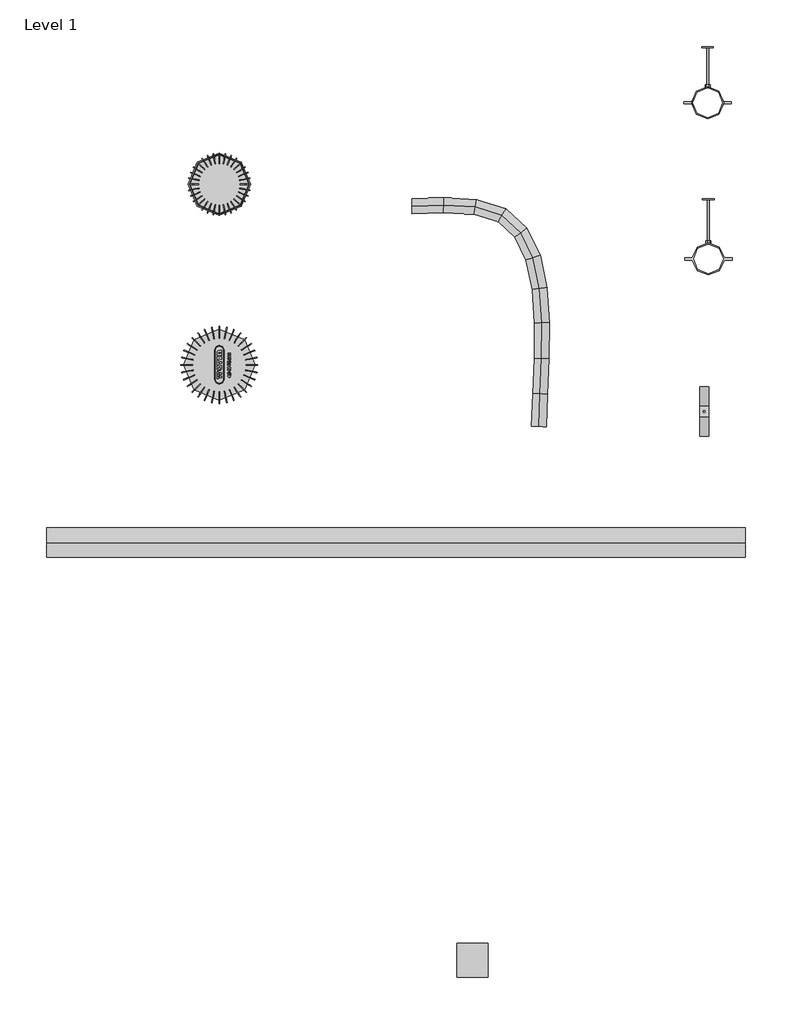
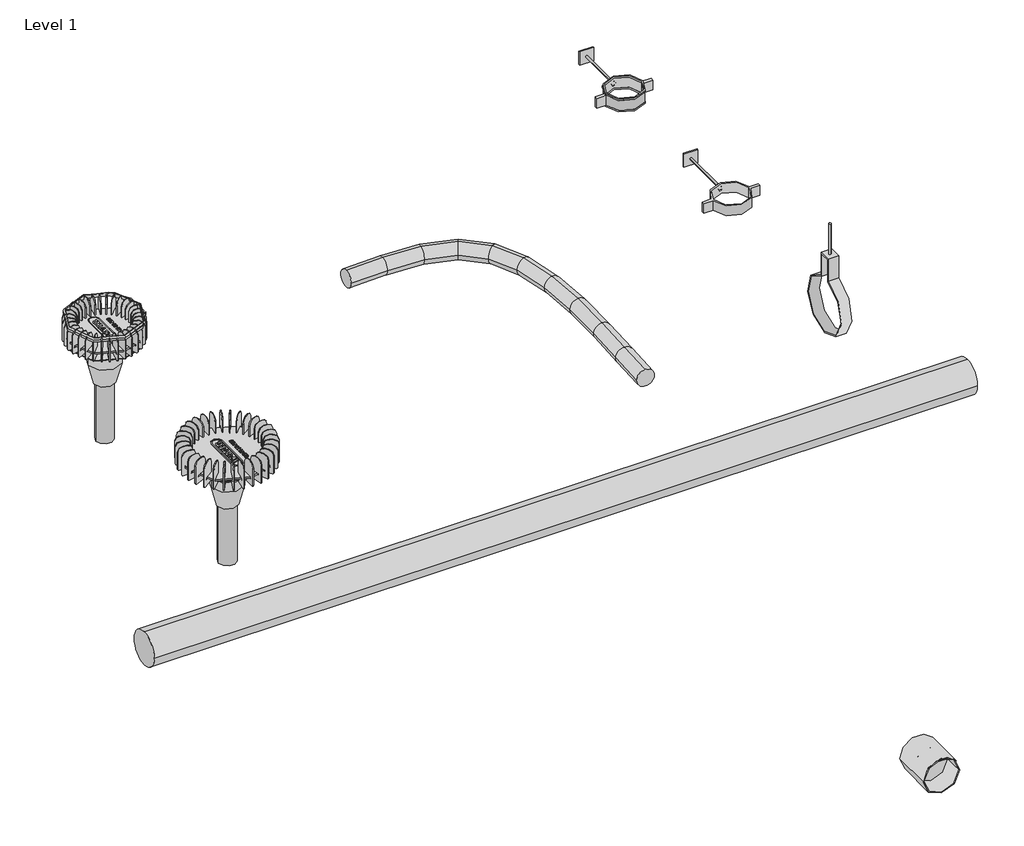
# One storey, incomplete: 9 pipe fittings, 2 pipe segments, 2 sanitary terminals.
"""IFC4 building model written with IfcOpenShell, lengths in millimetres."""

from ifc_helpers import new_model, si_unit, point, frame, frame_2d, origin, place, context, project, spatial, circle_curve, ellipse_curve, trimmed, segment, composite_curve, outline, extrude, transform, mapped, element, save
from ifc_brep_helpers import plane_surface, cylinder_surface, advanced_brep
from components import pipe_fitting_100mm_1dd35341, pipe_fitting_100mm_ce98358c, pipe_fitting_160mm_f1266ca1, var_6497f26d, var_11255891, var_2b31af74, var_5ac05391, var_02902a97, var_ffde15c7, var_37cc0f51, var_c5092817, var_465fd9f6

model = new_model("IFC4")

# Units and contexts
model_context = context("Model", 3, world=origin())
ifc_project = project(units=[si_unit("LENGTHUNIT", "METRE", prefix="MILLI")], contexts=[model_context])

# Site, building, storey
site = spatial("IfcSite", under=ifc_project)
building = spatial("IfcBuilding", under=site)
storey = spatial("IfcBuildingStorey", under=building, Name="Level 1", Elevation=0.0)

# Pipe fittings
placement = place(None, origin())
pipe_fitting_100mm_shape = pipe_fitting_100mm_1dd35341(model_context)
element("IfcPipeFitting", 1, ObjectType="AmancoWavin_AccesóriosdoTubo_QSSuporteFixoVertical : 100mm", at=placement, inside=storey, context=model_context, shape_type="MappedRepresentation", body=[
    mapped(pipe_fitting_100mm_shape, transform((22415.7038907, 17367.6977865, 0.0), x_axis=(-1.0, 0.0, 0.0), y_axis=(0.0, -1.0, 0.0), z_axis=(0.0, 0.0, 1.0))),
])
pipe_fitting_100mm_2_shape = pipe_fitting_100mm_ce98358c(model_context)
element("IfcPipeFitting", 2, ObjectType="AmancoWavin_AccesóriosdoTubo_QSSuporteDeslizanteVertical : 100mm", at=placement, inside=storey, context=model_context, shape_type="MappedRepresentation", body=[
    mapped(pipe_fitting_100mm_2_shape, transform((22418.4350094, 16840.7175517, 0.0), x_axis=(-1.0, 0.0, 0.0), y_axis=(0.0, -1.0, 0.0), z_axis=(0.0, 0.0, 1.0))),
])
pipe_fitting_160mm_shape = pipe_fitting_160mm_f1266ca1(model_context)
element("IfcPipeFitting", 3, ObjectType="AmancoWavin_AccesóriosdoTubo_QSSuporteDeslizanteH : 160mm", at=placement, inside=storey, context=model_context, shape_type="MappedRepresentation", body=[
    mapped(pipe_fitting_160mm_shape, transform((22403.9688788, 16325.1753593, 0.0), x_axis=(0.0, 1.0, 0.0), y_axis=(-1.0, 0.0, 0.0), z_axis=(0.0, 0.0, 1.0))),
])
var_shape = var_6497f26d(model_context)
element("IfcPipeFitting", 4, ObjectType="AmancoWavin_ConexõesdeTubos_QSZNãoUsarFunilConector : Var.", at=placement, inside=storey, context=model_context, shape_type="MappedRepresentation", body=[
    mapped(var_shape, transform((20766.6986878, 17092.6413558, -61.0), x_axis=(0.0, 0.0, -1.0), y_axis=(1.0, 0.0, 0.0), z_axis=(0.0, -1.0, 0.0))),
])
element("IfcPipeFitting", 5, ObjectType="AmancoWavin_ConexõesdeTubos_QSZNãoUsarFunilConector : Var.", at=placement, inside=storey, context=model_context, shape_type="MappedRepresentation", body=[
    mapped(var_shape, transform((20766.6986878, 16482.6413558, -61.0), x_axis=(0.0, 0.0, -1.0), y_axis=(1.0, 0.0, 0.0), z_axis=(0.0, -1.0, 0.0))),
])
var_2_shape = var_11255891(model_context)
element("IfcPipeFitting", 6, ObjectType="AmancoWavin_ConexõesdeTubos_QSZNãoUsarBarra : Var.", at=placement, inside=storey, context=model_context, shape_type="MappedRepresentation", body=[
    mapped(var_2_shape, transform((22403.9688788, 16325.1753593, 142.0), x_axis=(0.0, 1.0, 0.0), y_axis=(-1.0, 0.0, 0.0), z_axis=(0.0, 0.0, 1.0))),
])
var_3_shape = var_2b31af74(model_context)
element("IfcPipeFitting", 7, ObjectType="AmancoWavin_ConexõesdeTubos_QSZNãoUsarBarracomBase : Var.", at=placement, inside=storey, context=model_context, shape_type="MappedRepresentation", body=[
    mapped(var_3_shape, transform((22415.7038907, 17421.6977865, 0.0), x_axis=(-1.0, 0.0, 0.0), y_axis=(0.0, 0.0, 1.0), z_axis=(0.0, 1.0, 0.0))),
])
var_4_shape = var_5ac05391(model_context)
element("IfcPipeFitting", 8, ObjectType="AmancoWavin_ConexõesdeTubos_QSUnião : Var.", at=placement, inside=storey, context=model_context, shape_type="MappedRepresentation", body=[
    mapped(var_4_shape, transform((21621.3695998, 14473.7299639, 0.0), x_axis=(0.0, 1.0, 0.0), y_axis=(-1.0, 0.0, 0.0), z_axis=(0.0, 0.0, 1.0))),
])
var_5_shape = var_02902a97(model_context)
element("IfcPipeFitting", 9, ObjectType="AmancoWavin_ConexõesdeTubos_QSZNãoUsarBarracomBase : Var.", at=placement, inside=storey, context=model_context, shape_type="MappedRepresentation", body=[
    mapped(var_5_shape, transform((22418.4350094, 16894.7175517, 0.0), x_axis=(-1.0, 0.0, 0.0), y_axis=(0.0, 0.0, 1.0), z_axis=(0.0, 1.0, 0.0))),
])

# Pipe segments
element("IfcPipeSegment", 10, ObjectType="Amanco Wavin PVC QuickStream", at=placement, inside=storey, context=model_context, shape_type="SweptSolid", body=[
    extrude(outline(composite_curve([segment(trimmed(circle_curve(frame_2d((15883.1459459, 0.0)), 50.0), [point((15933.1459459, 0.0))], [point((15883.1459459, -50.0))], False, "CARTESIAN"), True, "CONTINUOUS"), segment(trimmed(circle_curve(frame_2d((15883.1459459, 0.0)), 50.0), [point((15883.1459459, -50.0))], [point((15833.1459459, 0.0))], False, "CARTESIAN"), True, "CONTINUOUS"), segment(trimmed(circle_curve(frame_2d((15883.1459459, 0.0)), 50.0), [point((15833.1459459, 0.0))], [point((15883.1459459, 50.0))], False, "CARTESIAN"), True, "CONTINUOUS"), segment(trimmed(circle_curve(frame_2d((15883.1459459, 0.0)), 50.0), [point((15883.1459459, 50.0))], [point((15933.1459459, 0.0))], False, "CARTESIAN"), True, "CONTINUOUS")], self_intersect=False)), frame((20183.1426094, 0.0, 0.0), z_axis=(1.0, 0.0, 0.0), x_axis=(0.0, 1.0, 0.0)), (0.0, 0.0, 1.0), 2360.0),
])
element("IfcPipeSegment", 11, ObjectType="QS Mangueira Flexível", at=placement, inside=storey, context=model_context, shape_type="AdvancedBrep", body=[
    advanced_brep(
    [(21821.194437, 16276.4381354, 0.0), (21846.1779918, 16275.5314989, -25.0), (21871.1615466, 16274.6248624, 0.0), (21846.1779918, 16275.5314989, 25.0), (21825.1697865, 16385.9840907, 0.0), (21850.1533413, 16385.0774542, -25.0), (21875.1368961, 16384.1708177, 0.0), (21850.1533413, 16385.0774542, 25.0), (21418.1648176, 16993.8494932, 0.0), (21417.4716223, 17018.839881, 25.0), (21416.778427, 17043.8302687, 0.0), (21417.4716223, 17018.839881, -25.0), (21830.1056227, 16504.4500815, 0.0), (21855.1013923, 16503.8279339, -25.0), (21880.0971619, 16503.2057863, 0.0), (21855.1013923, 16503.8279339, 25.0), (21831.0768303, 16623.9598554, 0.0), (21856.0837635, 16624.71142, -25.0), (21881.0906966, 16625.4629846, 0.0), (21856.0837635, 16624.71142, 25.0), (21823.3381628, 16737.2260399, 0.0), (21848.1620734, 16740.6563946, -25.0), (21872.985984, 16744.0867492, 0.0), (21848.1620734, 16740.6563946, 25.0), (21802.5447593, 16836.5252537, 0.0), (21826.3979408, 16844.5913396, -25.0), (21850.2511224, 16852.6574255, 0.0), (21826.3979408, 16844.5913396, 25.0), (21765.3958851, 16914.2712536, 0.0), (21785.8529843, 16929.4447371, -25.0), (21806.3100836, 16944.6182207, 0.0), (21785.8529843, 16929.4447371, 25.0), (21708.8707395, 16965.9025942, 0.0), (21721.5888226, 16988.1450693, -25.0), (21734.3069057, 17010.3875444, 0.0), (21721.5888226, 16988.1450693, 25.0), (21626.5978739, 16991.2317798, 0.0), (21631.0202432, 17016.0282401, -25.0), (21635.4426124, 17040.8247003, 0.0), (21631.0202432, 17016.0282401, 25.0), (21524.3102816, 16996.7938067, 0.0), (21524.6429455, 17021.8126503, -25.0), (21524.9756093, 17046.8314938, 0.0), (21524.6429455, 17021.8126503, 25.0)],
    [
        (0, 1, circle_curve(frame((21846.1779918, 16275.5314989, 0.0), z_axis=(-0.03626546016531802, -0.9993421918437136, 0.0), x_axis=(-0.9993421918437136, 0.03626546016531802, 0.0)), 25.0)),
        (1, 2, circle_curve(frame((21846.1779918, 16275.5314989, 0.0), z_axis=(-0.03626546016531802, -0.9993421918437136, 0.0), x_axis=(-0.9993421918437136, 0.03626546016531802, 0.0)), 25.0)),
        (2, 3, circle_curve(frame((21846.1779918, 16275.5314989, 0.0), z_axis=(-0.03626546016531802, -0.9993421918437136, 0.0), x_axis=(-0.9993421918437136, 0.03626546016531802, 0.0)), 25.0)),
        (3, 0, circle_curve(frame((21846.1779918, 16275.5314989, 0.0), z_axis=(-0.03626546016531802, -0.9993421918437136, 0.0), x_axis=(-0.9993421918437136, 0.03626546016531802, 0.0)), 25.0)),
        (0, 4),
        (4, 5, circle_curve(frame((21850.1533413, 16385.0774542, 0.0), z_axis=(-0.03626546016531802, -0.9993421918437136, 0.0), x_axis=(-0.9993421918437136, 0.03626546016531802, 0.0)), 25.0)),
        (5, 1),
        (5, 6, circle_curve(frame((21850.1533413, 16385.0774542, 0.0), z_axis=(-0.03626546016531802, -0.9993421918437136, 0.0), x_axis=(-0.9993421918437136, 0.03626546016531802, 0.0)), 25.0)),
        (6, 2),
        (6, 7, circle_curve(frame((21850.1533413, 16385.0774542, 0.0), z_axis=(-0.03626546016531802, -0.9993421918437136, 0.0), x_axis=(-0.9993421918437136, 0.03626546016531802, 0.0)), 25.0)),
        (7, 3),
        (7, 4, circle_curve(frame((21850.1533413, 16385.0774542, 0.0), z_axis=(-0.03626546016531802, -0.9993421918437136, 0.0), x_axis=(-0.9993421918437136, 0.03626546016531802, 0.0)), 25.0)),
        (8, 9, circle_curve(frame((21417.4716223, 17018.839881, 0.0), z_axis=(-0.9996155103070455, -0.02772781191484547, 0.0), x_axis=(0.02772781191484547, -0.9996155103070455, 0.0)), 25.0)),
        (9, 10, circle_curve(frame((21417.4716223, 17018.839881, 0.0), z_axis=(-0.9996155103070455, -0.02772781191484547, 0.0), x_axis=(0.02772781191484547, -0.9996155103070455, 0.0)), 25.0)),
        (10, 11, circle_curve(frame((21417.4716223, 17018.839881, 0.0), z_axis=(-0.9996155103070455, -0.02772781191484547, 0.0), x_axis=(0.02772781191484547, -0.9996155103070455, 0.0)), 25.0)),
        (11, 8, circle_curve(frame((21417.4716223, 17018.839881, 0.0), z_axis=(-0.9996155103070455, -0.02772781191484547, 0.0), x_axis=(0.02772781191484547, -0.9996155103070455, 0.0)), 25.0)),
        (4, 12),
        (12, 13, ellipse_curve(frame((21855.1013923, 16503.8279339, 0.0), z_axis=(-0.024882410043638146, -0.9996903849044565, 0.0), x_axis=(-0.9996903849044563, 0.024882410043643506, 0.0)), 25.003511, 25.0)),
        (13, 5),
        (13, 14, ellipse_curve(frame((21855.1013923, 16503.8279339, 0.0), z_axis=(-0.024882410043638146, -0.9996903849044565, 0.0), x_axis=(-0.9996903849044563, 0.024882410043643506, 0.0)), 25.003511, 25.0)),
        (14, 6),
        (14, 15, ellipse_curve(frame((21855.1013923, 16503.8279339, 0.0), z_axis=(-0.024882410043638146, -0.9996903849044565, 0.0), x_axis=(-0.9996903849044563, 0.024882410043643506, 0.0)), 25.003511, 25.0)),
        (15, 7),
        (15, 12, ellipse_curve(frame((21855.1013923, 16503.8279339, 0.0), z_axis=(-0.024882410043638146, -0.9996903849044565, 0.0), x_axis=(-0.9996903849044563, 0.024882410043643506, 0.0)), 25.003511, 25.0)),
        (12, 16),
        (16, 17, ellipse_curve(frame((21856.0837635, 16624.71142, 0.0), z_axis=(0.030040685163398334, -0.9995486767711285, 0.0), x_axis=(-0.9995486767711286, -0.030040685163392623, 0.0)), 25.0182245, 25.0)),
        (17, 13),
        (17, 18, ellipse_curve(frame((21856.0837635, 16624.71142, 0.0), z_axis=(0.030040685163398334, -0.9995486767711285, 0.0), x_axis=(-0.9995486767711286, -0.030040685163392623, 0.0)), 25.0182245, 25.0)),
        (18, 14),
        (18, 19, ellipse_curve(frame((21856.0837635, 16624.71142, 0.0), z_axis=(0.030040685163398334, -0.9995486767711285, 0.0), x_axis=(-0.9995486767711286, -0.030040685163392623, 0.0)), 25.0182245, 25.0)),
        (19, 15),
        (19, 16, ellipse_curve(frame((21856.0837635, 16624.71142, 0.0), z_axis=(0.030040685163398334, -0.9995486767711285, 0.0), x_axis=(-0.9995486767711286, -0.030040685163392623, 0.0)), 25.0182245, 25.0)),
        (16, 20),
        (20, 21, ellipse_curve(frame((21848.1620734, 16740.6563946, 0.0), z_axis=(0.13688671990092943, -0.9905867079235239, 0.0), x_axis=(-0.9905867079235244, -0.1368867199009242, 0.0)), 25.0598059, 25.0)),
        (21, 17),
        (21, 22, ellipse_curve(frame((21848.1620734, 16740.6563946, 0.0), z_axis=(0.13688671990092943, -0.9905867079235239, 0.0), x_axis=(-0.9905867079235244, -0.1368867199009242, 0.0)), 25.0598059, 25.0)),
        (22, 18),
        (22, 23, ellipse_curve(frame((21848.1620734, 16740.6563946, 0.0), z_axis=(0.13688671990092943, -0.9905867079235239, 0.0), x_axis=(-0.9905867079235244, -0.1368867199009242, 0.0)), 25.0598059, 25.0)),
        (23, 19),
        (23, 20, ellipse_curve(frame((21848.1620734, 16740.6563946, 0.0), z_axis=(0.13688671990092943, -0.9905867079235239, 0.0), x_axis=(-0.9905867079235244, -0.1368867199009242, 0.0)), 25.0598059, 25.0)),
        (20, 24),
        (24, 25, ellipse_curve(frame((21826.3979408, 16844.5913396, 0.0), z_axis=(0.32033609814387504, -0.9473039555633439, 0.0), x_axis=(-0.9473039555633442, -0.32033609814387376, 0.0)), 25.1800717, 25.0)),
        (25, 21),
        (25, 26, ellipse_curve(frame((21826.3979408, 16844.5913396, 0.0), z_axis=(0.32033609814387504, -0.9473039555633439, 0.0), x_axis=(-0.9473039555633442, -0.32033609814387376, 0.0)), 25.1800717, 25.0)),
        (26, 22),
        (26, 27, ellipse_curve(frame((21826.3979408, 16844.5913396, 0.0), z_axis=(0.32033609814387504, -0.9473039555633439, 0.0), x_axis=(-0.9473039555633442, -0.32033609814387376, 0.0)), 25.1800717, 25.0)),
        (27, 23),
        (27, 24, ellipse_curve(frame((21826.3979408, 16844.5913396, 0.0), z_axis=(0.32033609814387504, -0.9473039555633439, 0.0), x_axis=(-0.9473039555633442, -0.32033609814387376, 0.0)), 25.1800717, 25.0)),
        (24, 28),
        (28, 29, ellipse_curve(frame((21785.8529843, 16929.4447371, 0.0), z_axis=(0.59573640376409, -0.8031800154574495, 0.0), x_axis=(-0.803180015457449, -0.595736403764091, 0.0)), 25.4701298, 25.0)),
        (29, 25),
        (29, 30, ellipse_curve(frame((21785.8529843, 16929.4447371, 0.0), z_axis=(0.59573640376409, -0.8031800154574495, 0.0), x_axis=(-0.803180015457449, -0.595736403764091, 0.0)), 25.4701298, 25.0)),
        (30, 26),
        (30, 31, ellipse_curve(frame((21785.8529843, 16929.4447371, 0.0), z_axis=(0.59573640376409, -0.8031800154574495, 0.0), x_axis=(-0.803180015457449, -0.595736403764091, 0.0)), 25.4701298, 25.0)),
        (31, 27),
        (31, 28, ellipse_curve(frame((21785.8529843, 16929.4447371, 0.0), z_axis=(0.59573640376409, -0.8031800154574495, 0.0), x_axis=(-0.803180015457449, -0.595736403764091, 0.0)), 25.4701298, 25.0)),
        (28, 32),
        (32, 33, ellipse_curve(frame((21721.5888226, 16988.1450693, 0.0), z_axis=(0.8681069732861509, -0.49637715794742, 0.0), x_axis=(-0.49637715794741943, -0.8681069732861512, 0.0)), 25.6218137, 25.0)),
        (33, 29),
        (33, 34, ellipse_curve(frame((21721.5888226, 16988.1450693, 0.0), z_axis=(0.8681069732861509, -0.49637715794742, 0.0), x_axis=(-0.49637715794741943, -0.8681069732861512, 0.0)), 25.6218137, 25.0)),
        (34, 30),
        (34, 35, ellipse_curve(frame((21721.5888226, 16988.1450693, 0.0), z_axis=(0.8681069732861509, -0.49637715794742, 0.0), x_axis=(-0.49637715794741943, -0.8681069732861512, 0.0)), 25.6218137, 25.0)),
        (35, 31),
        (35, 32, ellipse_curve(frame((21721.5888226, 16988.1450693, 0.0), z_axis=(0.8681069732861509, -0.49637715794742, 0.0), x_axis=(-0.49637715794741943, -0.8681069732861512, 0.0)), 25.6218137, 25.0)),
        (32, 36),
        (36, 37, ellipse_curve(frame((21631.0202432, 17016.0282401, 0.0), z_axis=(0.9844658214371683, -0.17557632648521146, 0.0), x_axis=(-0.17557632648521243, -0.9844658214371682, 0.0)), 25.1877309, 25.0)),
        (37, 33),
        (37, 38, ellipse_curve(frame((21631.0202432, 17016.0282401, 0.0), z_axis=(0.9844658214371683, -0.17557632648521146, 0.0), x_axis=(-0.17557632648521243, -0.9844658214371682, 0.0)), 25.1877309, 25.0)),
        (38, 34),
        (38, 39, ellipse_curve(frame((21631.0202432, 17016.0282401, 0.0), z_axis=(0.9844658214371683, -0.17557632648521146, 0.0), x_axis=(-0.17557632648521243, -0.9844658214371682, 0.0)), 25.1877309, 25.0)),
        (39, 35),
        (39, 36, ellipse_curve(frame((21631.0202432, 17016.0282401, 0.0), z_axis=(0.9844658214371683, -0.17557632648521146, 0.0), x_axis=(-0.17557632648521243, -0.9844658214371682, 0.0)), 25.1877309, 25.0)),
        (36, 40),
        (40, 41, ellipse_curve(frame((21524.6429455, 17021.8126503, 0.0), z_axis=(0.9999116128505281, -0.013295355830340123, 0.0), x_axis=(-0.013295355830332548, -0.9999116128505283, 0.0)), 25.0210551, 25.0)),
        (41, 37),
        (41, 42, ellipse_curve(frame((21524.6429455, 17021.8126503, 0.0), z_axis=(0.9999116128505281, -0.013295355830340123, 0.0), x_axis=(-0.013295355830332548, -0.9999116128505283, 0.0)), 25.0210551, 25.0)),
        (42, 38),
        (42, 43, ellipse_curve(frame((21524.6429455, 17021.8126503, 0.0), z_axis=(0.9999116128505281, -0.013295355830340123, 0.0), x_axis=(-0.013295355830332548, -0.9999116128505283, 0.0)), 25.0210551, 25.0)),
        (43, 39),
        (43, 40, ellipse_curve(frame((21524.6429455, 17021.8126503, 0.0), z_axis=(0.9999116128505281, -0.013295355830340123, 0.0), x_axis=(-0.013295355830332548, -0.9999116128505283, 0.0)), 25.0210551, 25.0)),
        (40, 8),
        (11, 41),
        (10, 42),
        (9, 43),
    ],
    [
        plane_surface(frame((21846.1779918, 16275.5314989, 25.0), z_axis=(-0.03626546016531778, -0.9993421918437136, 0.0), x_axis=(0.9993421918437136, -0.03626546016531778, 0.0))),
        cylinder_surface(frame((21846.1779918, 16275.5314989, 0.0), z_axis=(-0.03626546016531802, -0.9993421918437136, 0.0), x_axis=(-0.9993421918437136, 0.03626546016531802, 0.0)), 25.0),
        plane_surface(frame((21417.4716223, 17018.839881, -25.0), z_axis=(-0.9996155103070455, -0.027727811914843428, 0.0), x_axis=(0.027727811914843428, -0.9996155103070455, 0.0))),
        cylinder_surface(frame((21850.1533413, 16385.0774542, 0.0), z_axis=(-0.041631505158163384, -0.9991330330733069, 0.0), x_axis=(-0.9991330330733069, 0.041631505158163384, 0.0)), 25.0),
        cylinder_surface(frame((21855.1013923, 16503.8279339, 0.0), z_axis=(-0.008126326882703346, -0.999966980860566, 0.0), x_axis=(-0.999966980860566, 0.008126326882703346, 0.0)), 25.0),
        cylinder_surface(frame((21856.0837635, 16624.71142, 0.0), z_axis=(0.06816393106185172, -0.9976741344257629, 0.0), x_axis=(-0.9976741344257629, -0.06816393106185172, 0.0)), 25.0),
        cylinder_surface(frame((21848.1620734, 16740.6563946, 0.0), z_axis=(0.20495614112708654, -0.9787711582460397, 0.0), x_axis=(-0.9787711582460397, -0.20495614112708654, 0.0)), 25.0),
        cylinder_surface(frame((21826.3979408, 16844.5913396, 0.0), z_axis=(0.43113437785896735, -0.9022877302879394, 0.0), x_axis=(-0.9022877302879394, -0.43113437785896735, 0.0)), 25.0),
        cylinder_surface(frame((21785.8529843, 16929.4447371, 0.0), z_axis=(0.738346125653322, -0.6744219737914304, 0.0), x_axis=(-0.6744219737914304, -0.738346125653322, 0.0)), 25.0),
        cylinder_surface(frame((21721.5888226, 16988.1450693, 0.0), z_axis=(0.9557317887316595, -0.29423926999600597, 0.0), x_axis=(-0.29423926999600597, -0.9557317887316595, 0.0)), 25.0),
        cylinder_surface(frame((21631.0202432, 17016.0282401, 0.0), z_axis=(0.9985248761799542, -0.05429614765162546, 0.0), x_axis=(-0.05429614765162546, -0.9985248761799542, 0.0)), 25.0),
        cylinder_surface(frame((21524.6429455, 17021.8126503, 0.0), z_axis=(0.9996155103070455, 0.02772781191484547, 0.0), x_axis=(0.02772781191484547, -0.9996155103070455, 0.0)), 25.0),
    ],
    [
        (0, [[1, 2, 3, 4]]),
        (1, [[-1, 5, 6, 7]]),
        (1, [[-2, -7, 8, 9]]),
        (1, [[-3, -9, 10, 11]]),
        (1, [[-4, -11, 12, -5]]),
        (2, [[13, 14, 15, 16]]),
        (3, [[-6, 17, 18, 19]]),
        (3, [[-8, -19, 20, 21]]),
        (3, [[-10, -21, 22, 23]]),
        (3, [[-12, -23, 24, -17]]),
        (4, [[-18, 25, 26, 27]]),
        (4, [[-20, -27, 28, 29]]),
        (4, [[-22, -29, 30, 31]]),
        (4, [[-24, -31, 32, -25]]),
        (5, [[-26, 33, 34, 35]]),
        (5, [[-28, -35, 36, 37]]),
        (5, [[-30, -37, 38, 39]]),
        (5, [[-32, -39, 40, -33]]),
        (6, [[-34, 41, 42, 43]]),
        (6, [[-36, -43, 44, 45]]),
        (6, [[-38, -45, 46, 47]]),
        (6, [[-40, -47, 48, -41]]),
        (7, [[-42, 49, 50, 51]]),
        (7, [[-44, -51, 52, 53]]),
        (7, [[-46, -53, 54, 55]]),
        (7, [[-48, -55, 56, -49]]),
        (8, [[-50, 57, 58, 59]]),
        (8, [[-52, -59, 60, 61]]),
        (8, [[-54, -61, 62, 63]]),
        (8, [[-56, -63, 64, -57]]),
        (9, [[-58, 65, 66, 67]]),
        (9, [[-60, -67, 68, 69]]),
        (9, [[-62, -69, 70, 71]]),
        (9, [[-64, -71, 72, -65]]),
        (10, [[-66, 73, 74, 75]]),
        (10, [[-68, -75, 76, 77]]),
        (10, [[-70, -77, 78, 79]]),
        (10, [[-72, -79, 80, -73]]),
        (11, [[-74, 81, -16, 82]]),
        (11, [[-76, -82, -15, 83]]),
        (11, [[-78, -83, -14, 84]]),
        (11, [[-80, -84, -13, -81]]),
    ],
),
])

# Sanitary terminals
var_6_shape = var_ffde15c7(model_context)
var_7_shape = var_37cc0f51(model_context)
element("IfcSanitaryTerminal", 12, ObjectType="AmancoWavin_AquipamentosHidráulicos_QSBocaldeCaptação : Var.", at=placement, inside=storey, context=model_context, shape_type="MappedRepresentation", body=[
    mapped(var_6_shape, transform((20766.6986878, 17092.6413558, 0.0), x_axis=(0.0, 1.0, 0.0), y_axis=(-1.0, 0.0, 0.0), z_axis=(0.0, 0.0, 1.0))),
    mapped(var_7_shape, transform((20766.6986878, 17092.6413558, 0.0), x_axis=(0.0, 1.0, 0.0), y_axis=(-1.0, 0.0, 0.0), z_axis=(0.0, 0.0, 1.0))),
])
var_8_shape = var_c5092817(model_context)
var_9_shape = var_465fd9f6(model_context)
element("IfcSanitaryTerminal", 13, ObjectType="AmancoWavin_AquipamentosHidráulicos_QSBocaldeCaptação : Var.", at=placement, inside=storey, context=model_context, shape_type="MappedRepresentation", body=[
    mapped(var_8_shape, transform((20766.6986878, 16482.6413558, 0.0), x_axis=(0.0, 1.0, 0.0), y_axis=(-1.0, 0.0, 0.0), z_axis=(0.0, 0.0, 1.0))),
    mapped(var_9_shape, transform((20766.6986878, 16482.6413558, 0.0), x_axis=(0.0, 1.0, 0.0), y_axis=(-1.0, 0.0, 0.0), z_axis=(0.0, 0.0, 1.0))),
])

save(model, "model.ifc")
